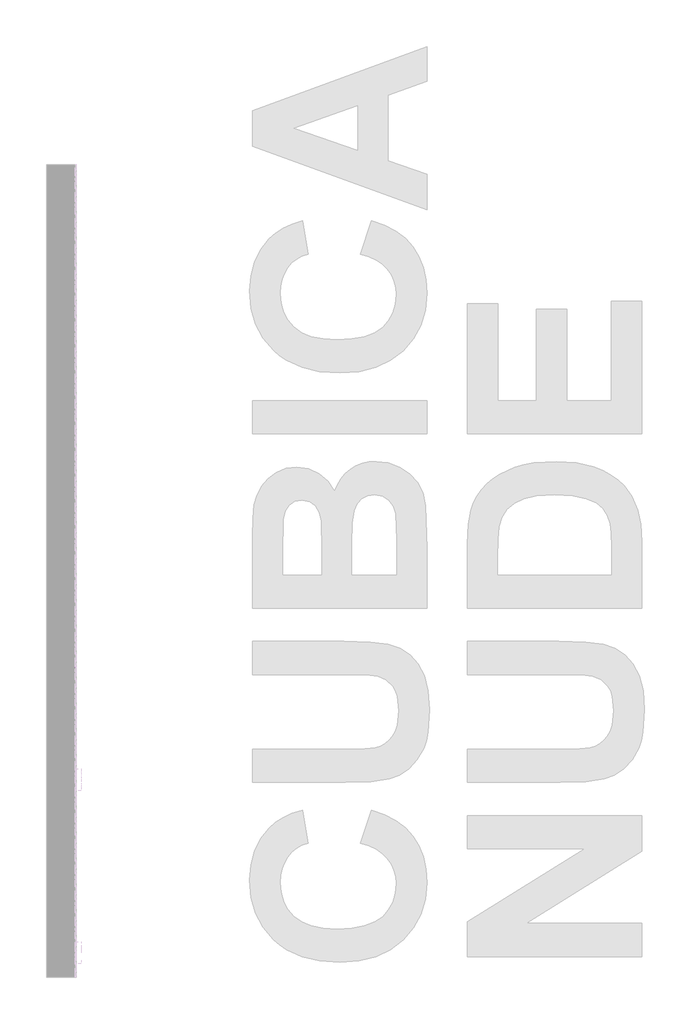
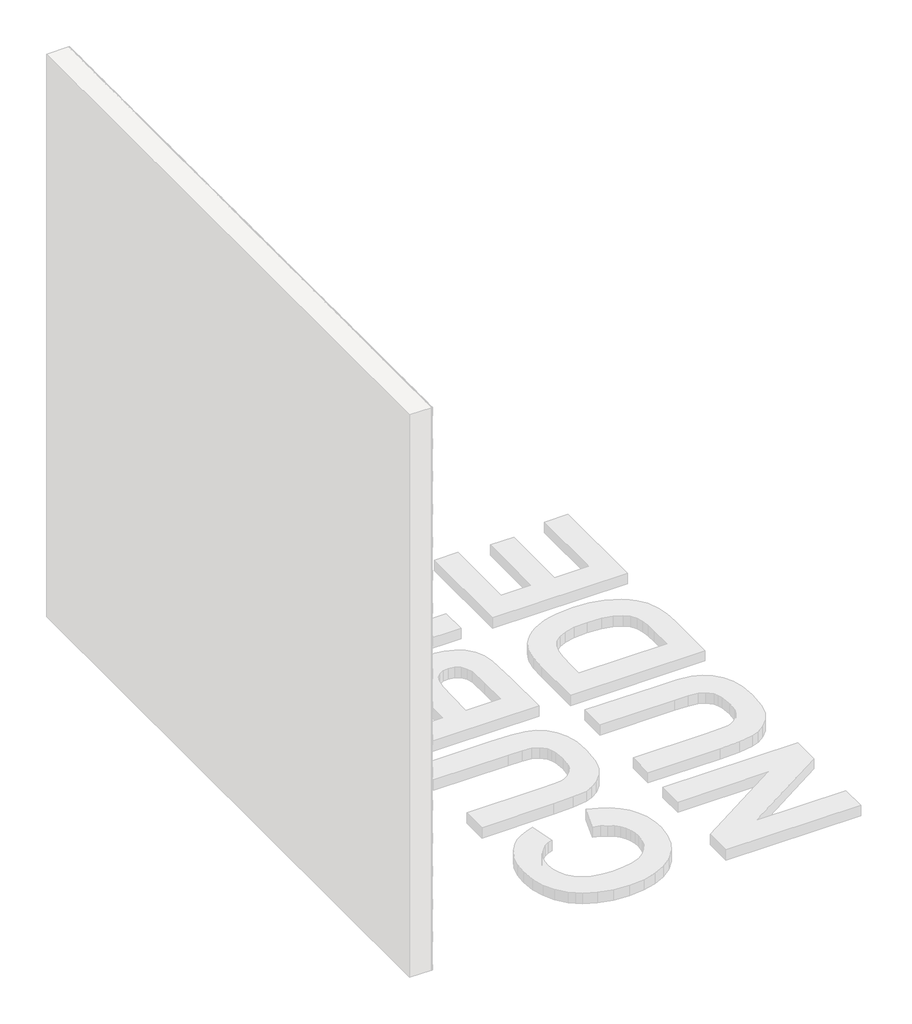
# One storey, part 60 of 121: 145 proxies.
"""IFC4 building model written with IfcOpenShell, lengths in millimetres."""

from ifc_helpers import new_model, si_unit, origin, place, context, project, spatial, transform, mapped, element, save
from components import generic_models_b2b2c5c1, generic_models_9bf73f6f, generic_models_5d175859

model = new_model("IFC4")

# Units and contexts
model_context = context("Model", 3, world=origin())
ifc_project = project(units=[si_unit("LENGTHUNIT", "METRE", prefix="MILLI")], contexts=[model_context])

# Site, building, storey
site = spatial("IfcSite", under=ifc_project)
building = spatial("IfcBuilding", under=site)
storey = spatial("IfcBuildingStorey", under=building, Name="PORTOBELLO - SHOWROOM", Elevation=0.0)

# Proxies
placement = place(None, origin())
generic_models_shape = generic_models_b2b2c5c1(model_context)
element("IfcBuildingElementProxy", 1, Name="PBSHOP - CUBICA NUDE 4,8X8,3 : CUBICA NUDE - POSIÇÃO 01", ObjectType="PBSHOP - CUBICA NUDE 4,8X8,3 : CUBICA NUDE - POSIÇÃO 01", at=placement, inside=storey, context=model_context, shape_type="MappedRepresentation", body=[
    mapped(generic_models_shape, transform((150369.5341846, 7032.4226303, 2091.7227645), x_axis=(0.0, 1.0, 0.0), y_axis=(0.0, 0.0, 1.0), z_axis=(1.0, 0.0, 0.0))),
])
element("IfcBuildingElementProxy", 2, Name="PBSHOP - CUBICA NUDE 4,8X8,3 : CUBICA NUDE - POSIÇÃO 01", ObjectType="PBSHOP - CUBICA NUDE 4,8X8,3 : CUBICA NUDE - POSIÇÃO 01", at=placement, inside=storey, context=model_context, shape_type="MappedRepresentation", body=[
    mapped(generic_models_shape, transform((150369.5341846, 7123.2618995, 2091.7227645), x_axis=(0.0, 1.0, 0.0), y_axis=(0.0, 0.0, 1.0), z_axis=(1.0, 0.0, 0.0))),
])
element("IfcBuildingElementProxy", 3, Name="PBSHOP - CUBICA NUDE 4,8X8,3 : CUBICA NUDE - POSIÇÃO 01", ObjectType="PBSHOP - CUBICA NUDE 4,8X8,3 : CUBICA NUDE - POSIÇÃO 01", at=placement, inside=storey, context=model_context, shape_type="MappedRepresentation", body=[
    mapped(generic_models_shape, transform((150369.5341846, 7214.1011688, 2091.7227645), x_axis=(0.0, 1.0, 0.0), y_axis=(0.0, 0.0, 1.0), z_axis=(1.0, 0.0, 0.0))),
])
element("IfcBuildingElementProxy", 4, Name="PBSHOP - CUBICA NUDE 4,8X8,3 : CUBICA NUDE - POSIÇÃO 01", ObjectType="PBSHOP - CUBICA NUDE 4,8X8,3 : CUBICA NUDE - POSIÇÃO 01", at=placement, inside=storey, context=model_context, shape_type="MappedRepresentation", body=[
    mapped(generic_models_shape, transform((150369.5341846, 7304.940438, 2091.7227645), x_axis=(0.0, 1.0, 0.0), y_axis=(0.0, 0.0, 1.0), z_axis=(1.0, 0.0, 0.0))),
])
element("IfcBuildingElementProxy", 5, Name="PBSHOP - CUBICA NUDE 4,8X8,3 : CUBICA NUDE - POSIÇÃO 01", ObjectType="PBSHOP - CUBICA NUDE 4,8X8,3 : CUBICA NUDE - POSIÇÃO 01", at=placement, inside=storey, context=model_context, shape_type="MappedRepresentation", body=[
    mapped(generic_models_shape, transform((150369.5341846, 7395.7797073, 2091.7227645), x_axis=(0.0, 1.0, 0.0), y_axis=(0.0, 0.0, 1.0), z_axis=(1.0, 0.0, 0.0))),
])
element("IfcBuildingElementProxy", 6, Name="PBSHOP - CUBICA NUDE 4,8X8,3 : CUBICA NUDE - POSIÇÃO 01", ObjectType="PBSHOP - CUBICA NUDE 4,8X8,3 : CUBICA NUDE - POSIÇÃO 01", at=placement, inside=storey, context=model_context, shape_type="MappedRepresentation", body=[
    mapped(generic_models_shape, transform((150369.5341846, 7486.6189765, 2091.7227645), x_axis=(0.0, 1.0, 0.0), y_axis=(0.0, 0.0, 1.0), z_axis=(1.0, 0.0, 0.0))),
])
element("IfcBuildingElementProxy", 7, Name="PBSHOP - CUBICA NUDE 4,8X8,3 : CUBICA NUDE - POSIÇÃO 01", ObjectType="PBSHOP - CUBICA NUDE 4,8X8,3 : CUBICA NUDE - POSIÇÃO 01", at=placement, inside=storey, context=model_context, shape_type="MappedRepresentation", body=[
    mapped(generic_models_shape, transform((150369.5341846, 7577.4582457, 2091.7227645), x_axis=(0.0, 1.0, 0.0), y_axis=(0.0, 0.0, 1.0), z_axis=(1.0, 0.0, 0.0))),
])
element("IfcBuildingElementProxy", 8, Name="PBSHOP - CUBICA NUDE 4,8X8,3 : CUBICA NUDE - POSIÇÃO 01", ObjectType="PBSHOP - CUBICA NUDE 4,8X8,3 : CUBICA NUDE - POSIÇÃO 01", at=placement, inside=storey, context=model_context, shape_type="MappedRepresentation", body=[
    mapped(generic_models_shape, transform((150369.5341846, 7668.297515, 2091.7227645), x_axis=(0.0, 1.0, 0.0), y_axis=(0.0, 0.0, 1.0), z_axis=(1.0, 0.0, 0.0))),
])
element("IfcBuildingElementProxy", 9, Name="PBSHOP - CUBICA NUDE 4,8X8,3 : CUBICA NUDE - POSIÇÃO 01", ObjectType="PBSHOP - CUBICA NUDE 4,8X8,3 : CUBICA NUDE - POSIÇÃO 01", at=placement, inside=storey, context=model_context, shape_type="MappedRepresentation", body=[
    mapped(generic_models_shape, transform((150369.5341846, 7759.1367842, 2091.7227645), x_axis=(0.0, 1.0, 0.0), y_axis=(0.0, 0.0, 1.0), z_axis=(1.0, 0.0, 0.0))),
])
element("IfcBuildingElementProxy", 10, Name="PBSHOP - CUBICA NUDE 4,8X8,3 : CUBICA NUDE - POSIÇÃO 01", ObjectType="PBSHOP - CUBICA NUDE 4,8X8,3 : CUBICA NUDE - POSIÇÃO 01", at=placement, inside=storey, context=model_context, shape_type="MappedRepresentation", body=[
    mapped(generic_models_shape, transform((150369.5341846, 7849.9760535, 2091.7227645), x_axis=(0.0, 1.0, 0.0), y_axis=(0.0, 0.0, 1.0), z_axis=(1.0, 0.0, 0.0))),
])
element("IfcBuildingElementProxy", 11, Name="PBSHOP - CUBICA NUDE 4,8X8,3 : CUBICA NUDE - POSIÇÃO 01", ObjectType="PBSHOP - CUBICA NUDE 4,8X8,3 : CUBICA NUDE - POSIÇÃO 01", at=placement, inside=storey, context=model_context, shape_type="MappedRepresentation", body=[
    mapped(generic_models_shape, transform((150369.5341846, 7940.8153227, 2091.7227645), x_axis=(0.0, 1.0, 0.0), y_axis=(0.0, 0.0, 1.0), z_axis=(1.0, 0.0, 0.0))),
])
element("IfcBuildingElementProxy", 12, Name="PBSHOP - CUBICA NUDE 4,8X8,3 : CUBICA NUDE - POSIÇÃO 01", ObjectType="PBSHOP - CUBICA NUDE 4,8X8,3 : CUBICA NUDE - POSIÇÃO 01", at=placement, inside=storey, context=model_context, shape_type="MappedRepresentation", body=[
    mapped(generic_models_shape, transform((150369.5341846, 7077.8422649, 2170.6574029), x_axis=(0.0, 1.0, 0.0), y_axis=(0.0, 0.0, 1.0), z_axis=(1.0, 0.0, 0.0))),
])
element("IfcBuildingElementProxy", 13, Name="PBSHOP - CUBICA NUDE 4,8X8,3 : CUBICA NUDE - POSIÇÃO 01", ObjectType="PBSHOP - CUBICA NUDE 4,8X8,3 : CUBICA NUDE - POSIÇÃO 01", at=placement, inside=storey, context=model_context, shape_type="MappedRepresentation", body=[
    mapped(generic_models_shape, transform((150369.5341846, 7168.6815341, 2170.6574029), x_axis=(0.0, 1.0, 0.0), y_axis=(0.0, 0.0, 1.0), z_axis=(1.0, 0.0, 0.0))),
])
element("IfcBuildingElementProxy", 14, Name="PBSHOP - CUBICA NUDE 4,8X8,3 : CUBICA NUDE - POSIÇÃO 01", ObjectType="PBSHOP - CUBICA NUDE 4,8X8,3 : CUBICA NUDE - POSIÇÃO 01", at=placement, inside=storey, context=model_context, shape_type="MappedRepresentation", body=[
    mapped(generic_models_shape, transform((150369.5341846, 7259.5208034, 2170.6574029), x_axis=(0.0, 1.0, 0.0), y_axis=(0.0, 0.0, 1.0), z_axis=(1.0, 0.0, 0.0))),
])
element("IfcBuildingElementProxy", 15, Name="PBSHOP - CUBICA NUDE 4,8X8,3 : CUBICA NUDE - POSIÇÃO 01", ObjectType="PBSHOP - CUBICA NUDE 4,8X8,3 : CUBICA NUDE - POSIÇÃO 01", at=placement, inside=storey, context=model_context, shape_type="MappedRepresentation", body=[
    mapped(generic_models_shape, transform((150369.5341846, 7350.3600726, 2170.6574029), x_axis=(0.0, 1.0, 0.0), y_axis=(0.0, 0.0, 1.0), z_axis=(1.0, 0.0, 0.0))),
])
element("IfcBuildingElementProxy", 16, Name="PBSHOP - CUBICA NUDE 4,8X8,3 : CUBICA NUDE - POSIÇÃO 01", ObjectType="PBSHOP - CUBICA NUDE 4,8X8,3 : CUBICA NUDE - POSIÇÃO 01", at=placement, inside=storey, context=model_context, shape_type="MappedRepresentation", body=[
    mapped(generic_models_shape, transform((150369.5341846, 7441.1993419, 2170.6574029), x_axis=(0.0, 1.0, 0.0), y_axis=(0.0, 0.0, 1.0), z_axis=(1.0, 0.0, 0.0))),
])
element("IfcBuildingElementProxy", 17, Name="PBSHOP - CUBICA NUDE 4,8X8,3 : CUBICA NUDE - POSIÇÃO 01", ObjectType="PBSHOP - CUBICA NUDE 4,8X8,3 : CUBICA NUDE - POSIÇÃO 01", at=placement, inside=storey, context=model_context, shape_type="MappedRepresentation", body=[
    mapped(generic_models_shape, transform((150369.5341846, 7532.0386111, 2170.6574029), x_axis=(0.0, 1.0, 0.0), y_axis=(0.0, 0.0, 1.0), z_axis=(1.0, 0.0, 0.0))),
])
element("IfcBuildingElementProxy", 18, Name="PBSHOP - CUBICA NUDE 4,8X8,3 : CUBICA NUDE - POSIÇÃO 01", ObjectType="PBSHOP - CUBICA NUDE 4,8X8,3 : CUBICA NUDE - POSIÇÃO 01", at=placement, inside=storey, context=model_context, shape_type="MappedRepresentation", body=[
    mapped(generic_models_shape, transform((150369.5341846, 7622.8778804, 2170.6574029), x_axis=(0.0, 1.0, 0.0), y_axis=(0.0, 0.0, 1.0), z_axis=(1.0, 0.0, 0.0))),
])
element("IfcBuildingElementProxy", 19, Name="PBSHOP - CUBICA NUDE 4,8X8,3 : CUBICA NUDE - POSIÇÃO 01", ObjectType="PBSHOP - CUBICA NUDE 4,8X8,3 : CUBICA NUDE - POSIÇÃO 01", at=placement, inside=storey, context=model_context, shape_type="MappedRepresentation", body=[
    mapped(generic_models_shape, transform((150369.5341846, 7713.7171496, 2170.6574029), x_axis=(0.0, 1.0, 0.0), y_axis=(0.0, 0.0, 1.0), z_axis=(1.0, 0.0, 0.0))),
])
element("IfcBuildingElementProxy", 20, Name="PBSHOP - CUBICA NUDE 4,8X8,3 : CUBICA NUDE - POSIÇÃO 01", ObjectType="PBSHOP - CUBICA NUDE 4,8X8,3 : CUBICA NUDE - POSIÇÃO 01", at=placement, inside=storey, context=model_context, shape_type="MappedRepresentation", body=[
    mapped(generic_models_shape, transform((150369.5341846, 7804.5564189, 2170.6574029), x_axis=(0.0, 1.0, 0.0), y_axis=(0.0, 0.0, 1.0), z_axis=(1.0, 0.0, 0.0))),
])
element("IfcBuildingElementProxy", 21, Name="PBSHOP - CUBICA NUDE 4,8X8,3 : CUBICA NUDE - POSIÇÃO 01", ObjectType="PBSHOP - CUBICA NUDE 4,8X8,3 : CUBICA NUDE - POSIÇÃO 01", at=placement, inside=storey, context=model_context, shape_type="MappedRepresentation", body=[
    mapped(generic_models_shape, transform((150369.5341846, 7895.3956881, 2170.6574029), x_axis=(0.0, 1.0, 0.0), y_axis=(0.0, 0.0, 1.0), z_axis=(1.0, 0.0, 0.0))),
])
element("IfcBuildingElementProxy", 22, Name="PBSHOP - CUBICA NUDE 4,8X8,3 : CUBICA NUDE - POSIÇÃO 01", ObjectType="PBSHOP - CUBICA NUDE 4,8X8,3 : CUBICA NUDE - POSIÇÃO 01", at=placement, inside=storey, context=model_context, shape_type="MappedRepresentation", body=[
    mapped(generic_models_shape, transform((150369.5341846, 7986.2349573, 2170.6574029), x_axis=(0.0, 1.0, 0.0), y_axis=(0.0, 0.0, 1.0), z_axis=(1.0, 0.0, 0.0))),
])
element("IfcBuildingElementProxy", 23, Name="PBSHOP - CUBICA NUDE 4,8X8,3 : CUBICA NUDE - POSIÇÃO 01", ObjectType="PBSHOP - CUBICA NUDE 4,8X8,3 : CUBICA NUDE - POSIÇÃO 01", at=placement, inside=storey, context=model_context, shape_type="MappedRepresentation", body=[
    mapped(generic_models_shape, transform((150369.5341846, 7032.4226303, 2249.5920413), x_axis=(0.0, 1.0, 0.0), y_axis=(0.0, 0.0, 1.0), z_axis=(1.0, 0.0, 0.0))),
])
element("IfcBuildingElementProxy", 24, Name="PBSHOP - CUBICA NUDE 4,8X8,3 : CUBICA NUDE - POSIÇÃO 01", ObjectType="PBSHOP - CUBICA NUDE 4,8X8,3 : CUBICA NUDE - POSIÇÃO 01", at=placement, inside=storey, context=model_context, shape_type="MappedRepresentation", body=[
    mapped(generic_models_shape, transform((150369.5341846, 7123.2618995, 2249.5920413), x_axis=(0.0, 1.0, 0.0), y_axis=(0.0, 0.0, 1.0), z_axis=(1.0, 0.0, 0.0))),
])
element("IfcBuildingElementProxy", 25, Name="PBSHOP - CUBICA NUDE 4,8X8,3 : CUBICA NUDE - POSIÇÃO 01", ObjectType="PBSHOP - CUBICA NUDE 4,8X8,3 : CUBICA NUDE - POSIÇÃO 01", at=placement, inside=storey, context=model_context, shape_type="MappedRepresentation", body=[
    mapped(generic_models_shape, transform((150369.5341846, 7214.1011688, 2249.5920413), x_axis=(0.0, 1.0, 0.0), y_axis=(0.0, 0.0, 1.0), z_axis=(1.0, 0.0, 0.0))),
])
element("IfcBuildingElementProxy", 26, Name="PBSHOP - CUBICA NUDE 4,8X8,3 : CUBICA NUDE - POSIÇÃO 01", ObjectType="PBSHOP - CUBICA NUDE 4,8X8,3 : CUBICA NUDE - POSIÇÃO 01", at=placement, inside=storey, context=model_context, shape_type="MappedRepresentation", body=[
    mapped(generic_models_shape, transform((150369.5341846, 7304.940438, 2249.5920413), x_axis=(0.0, 1.0, 0.0), y_axis=(0.0, 0.0, 1.0), z_axis=(1.0, 0.0, 0.0))),
])
element("IfcBuildingElementProxy", 27, Name="PBSHOP - CUBICA NUDE 4,8X8,3 : CUBICA NUDE - POSIÇÃO 01", ObjectType="PBSHOP - CUBICA NUDE 4,8X8,3 : CUBICA NUDE - POSIÇÃO 01", at=placement, inside=storey, context=model_context, shape_type="MappedRepresentation", body=[
    mapped(generic_models_shape, transform((150369.5341846, 7395.7797073, 2249.5920413), x_axis=(0.0, 1.0, 0.0), y_axis=(0.0, 0.0, 1.0), z_axis=(1.0, 0.0, 0.0))),
])
element("IfcBuildingElementProxy", 28, Name="PBSHOP - CUBICA NUDE 4,8X8,3 : CUBICA NUDE - POSIÇÃO 01", ObjectType="PBSHOP - CUBICA NUDE 4,8X8,3 : CUBICA NUDE - POSIÇÃO 01", at=placement, inside=storey, context=model_context, shape_type="MappedRepresentation", body=[
    mapped(generic_models_shape, transform((150369.5341846, 7486.6189765, 2249.5920413), x_axis=(0.0, 1.0, 0.0), y_axis=(0.0, 0.0, 1.0), z_axis=(1.0, 0.0, 0.0))),
])
element("IfcBuildingElementProxy", 29, Name="PBSHOP - CUBICA NUDE 4,8X8,3 : CUBICA NUDE - POSIÇÃO 01", ObjectType="PBSHOP - CUBICA NUDE 4,8X8,3 : CUBICA NUDE - POSIÇÃO 01", at=placement, inside=storey, context=model_context, shape_type="MappedRepresentation", body=[
    mapped(generic_models_shape, transform((150369.5341846, 7577.4582457, 2249.5920413), x_axis=(0.0, 1.0, 0.0), y_axis=(0.0, 0.0, 1.0), z_axis=(1.0, 0.0, 0.0))),
])
element("IfcBuildingElementProxy", 30, Name="PBSHOP - CUBICA NUDE 4,8X8,3 : CUBICA NUDE - POSIÇÃO 01", ObjectType="PBSHOP - CUBICA NUDE 4,8X8,3 : CUBICA NUDE - POSIÇÃO 01", at=placement, inside=storey, context=model_context, shape_type="MappedRepresentation", body=[
    mapped(generic_models_shape, transform((150369.5341846, 7668.297515, 2249.5920413), x_axis=(0.0, 1.0, 0.0), y_axis=(0.0, 0.0, 1.0), z_axis=(1.0, 0.0, 0.0))),
])
element("IfcBuildingElementProxy", 31, Name="PBSHOP - CUBICA NUDE 4,8X8,3 : CUBICA NUDE - POSIÇÃO 01", ObjectType="PBSHOP - CUBICA NUDE 4,8X8,3 : CUBICA NUDE - POSIÇÃO 01", at=placement, inside=storey, context=model_context, shape_type="MappedRepresentation", body=[
    mapped(generic_models_shape, transform((150369.5341846, 7759.1367842, 2249.5920413), x_axis=(0.0, 1.0, 0.0), y_axis=(0.0, 0.0, 1.0), z_axis=(1.0, 0.0, 0.0))),
])
element("IfcBuildingElementProxy", 32, Name="PBSHOP - CUBICA NUDE 4,8X8,3 : CUBICA NUDE - POSIÇÃO 01", ObjectType="PBSHOP - CUBICA NUDE 4,8X8,3 : CUBICA NUDE - POSIÇÃO 01", at=placement, inside=storey, context=model_context, shape_type="MappedRepresentation", body=[
    mapped(generic_models_shape, transform((150369.5341846, 7849.9760535, 2249.5920413), x_axis=(0.0, 1.0, 0.0), y_axis=(0.0, 0.0, 1.0), z_axis=(1.0, 0.0, 0.0))),
])
element("IfcBuildingElementProxy", 33, Name="PBSHOP - CUBICA NUDE 4,8X8,3 : CUBICA NUDE - POSIÇÃO 01", ObjectType="PBSHOP - CUBICA NUDE 4,8X8,3 : CUBICA NUDE - POSIÇÃO 01", at=placement, inside=storey, context=model_context, shape_type="MappedRepresentation", body=[
    mapped(generic_models_shape, transform((150369.5341846, 7940.8153227, 2249.5920413), x_axis=(0.0, 1.0, 0.0), y_axis=(0.0, 0.0, 1.0), z_axis=(1.0, 0.0, 0.0))),
])
element("IfcBuildingElementProxy", 34, Name="PBSHOP - CUBICA NUDE 4,8X8,3 : CUBICA NUDE - POSIÇÃO 01", ObjectType="PBSHOP - CUBICA NUDE 4,8X8,3 : CUBICA NUDE - POSIÇÃO 01", at=placement, inside=storey, context=model_context, shape_type="MappedRepresentation", body=[
    mapped(generic_models_shape, transform((150369.5341846, 7077.8422649, 2328.5266797), x_axis=(0.0, 1.0, 0.0), y_axis=(0.0, 0.0, 1.0), z_axis=(1.0, 0.0, 0.0))),
])
element("IfcBuildingElementProxy", 35, Name="PBSHOP - CUBICA NUDE 4,8X8,3 : CUBICA NUDE - POSIÇÃO 01", ObjectType="PBSHOP - CUBICA NUDE 4,8X8,3 : CUBICA NUDE - POSIÇÃO 01", at=placement, inside=storey, context=model_context, shape_type="MappedRepresentation", body=[
    mapped(generic_models_shape, transform((150369.5341846, 7168.6815341, 2328.5266797), x_axis=(0.0, 1.0, 0.0), y_axis=(0.0, 0.0, 1.0), z_axis=(1.0, 0.0, 0.0))),
])
element("IfcBuildingElementProxy", 36, Name="PBSHOP - CUBICA NUDE 4,8X8,3 : CUBICA NUDE - POSIÇÃO 01", ObjectType="PBSHOP - CUBICA NUDE 4,8X8,3 : CUBICA NUDE - POSIÇÃO 01", at=placement, inside=storey, context=model_context, shape_type="MappedRepresentation", body=[
    mapped(generic_models_shape, transform((150369.5341846, 7259.5208034, 2328.5266797), x_axis=(0.0, 1.0, 0.0), y_axis=(0.0, 0.0, 1.0), z_axis=(1.0, 0.0, 0.0))),
])
element("IfcBuildingElementProxy", 37, Name="PBSHOP - CUBICA NUDE 4,8X8,3 : CUBICA NUDE - POSIÇÃO 01", ObjectType="PBSHOP - CUBICA NUDE 4,8X8,3 : CUBICA NUDE - POSIÇÃO 01", at=placement, inside=storey, context=model_context, shape_type="MappedRepresentation", body=[
    mapped(generic_models_shape, transform((150369.5341846, 7350.3600726, 2328.5266797), x_axis=(0.0, 1.0, 0.0), y_axis=(0.0, 0.0, 1.0), z_axis=(1.0, 0.0, 0.0))),
])
element("IfcBuildingElementProxy", 38, Name="PBSHOP - CUBICA NUDE 4,8X8,3 : CUBICA NUDE - POSIÇÃO 01", ObjectType="PBSHOP - CUBICA NUDE 4,8X8,3 : CUBICA NUDE - POSIÇÃO 01", at=placement, inside=storey, context=model_context, shape_type="MappedRepresentation", body=[
    mapped(generic_models_shape, transform((150369.5341846, 7441.1993419, 2328.5266797), x_axis=(0.0, 1.0, 0.0), y_axis=(0.0, 0.0, 1.0), z_axis=(1.0, 0.0, 0.0))),
])
element("IfcBuildingElementProxy", 39, Name="PBSHOP - CUBICA NUDE 4,8X8,3 : CUBICA NUDE - POSIÇÃO 01", ObjectType="PBSHOP - CUBICA NUDE 4,8X8,3 : CUBICA NUDE - POSIÇÃO 01", at=placement, inside=storey, context=model_context, shape_type="MappedRepresentation", body=[
    mapped(generic_models_shape, transform((150369.5341846, 7532.0386111, 2328.5266797), x_axis=(0.0, 1.0, 0.0), y_axis=(0.0, 0.0, 1.0), z_axis=(1.0, 0.0, 0.0))),
])
element("IfcBuildingElementProxy", 40, Name="PBSHOP - CUBICA NUDE 4,8X8,3 : CUBICA NUDE - POSIÇÃO 01", ObjectType="PBSHOP - CUBICA NUDE 4,8X8,3 : CUBICA NUDE - POSIÇÃO 01", at=placement, inside=storey, context=model_context, shape_type="MappedRepresentation", body=[
    mapped(generic_models_shape, transform((150369.5341846, 7622.8778804, 2328.5266797), x_axis=(0.0, 1.0, 0.0), y_axis=(0.0, 0.0, 1.0), z_axis=(1.0, 0.0, 0.0))),
])
element("IfcBuildingElementProxy", 41, Name="PBSHOP - CUBICA NUDE 4,8X8,3 : CUBICA NUDE - POSIÇÃO 01", ObjectType="PBSHOP - CUBICA NUDE 4,8X8,3 : CUBICA NUDE - POSIÇÃO 01", at=placement, inside=storey, context=model_context, shape_type="MappedRepresentation", body=[
    mapped(generic_models_shape, transform((150369.5341846, 7713.7171496, 2328.5266797), x_axis=(0.0, 1.0, 0.0), y_axis=(0.0, 0.0, 1.0), z_axis=(1.0, 0.0, 0.0))),
])
element("IfcBuildingElementProxy", 42, Name="PBSHOP - CUBICA NUDE 4,8X8,3 : CUBICA NUDE - POSIÇÃO 01", ObjectType="PBSHOP - CUBICA NUDE 4,8X8,3 : CUBICA NUDE - POSIÇÃO 01", at=placement, inside=storey, context=model_context, shape_type="MappedRepresentation", body=[
    mapped(generic_models_shape, transform((150369.5341846, 7804.5564189, 2328.5266797), x_axis=(0.0, 1.0, 0.0), y_axis=(0.0, 0.0, 1.0), z_axis=(1.0, 0.0, 0.0))),
])
element("IfcBuildingElementProxy", 43, Name="PBSHOP - CUBICA NUDE 4,8X8,3 : CUBICA NUDE - POSIÇÃO 01", ObjectType="PBSHOP - CUBICA NUDE 4,8X8,3 : CUBICA NUDE - POSIÇÃO 01", at=placement, inside=storey, context=model_context, shape_type="MappedRepresentation", body=[
    mapped(generic_models_shape, transform((150369.5341846, 7895.3956881, 2328.5266797), x_axis=(0.0, 1.0, 0.0), y_axis=(0.0, 0.0, 1.0), z_axis=(1.0, 0.0, 0.0))),
])
element("IfcBuildingElementProxy", 44, Name="PBSHOP - CUBICA NUDE 4,8X8,3 : CUBICA NUDE - POSIÇÃO 01", ObjectType="PBSHOP - CUBICA NUDE 4,8X8,3 : CUBICA NUDE - POSIÇÃO 01", at=placement, inside=storey, context=model_context, shape_type="MappedRepresentation", body=[
    mapped(generic_models_shape, transform((150369.5341846, 7986.2349573, 2328.5266797), x_axis=(0.0, 1.0, 0.0), y_axis=(0.0, 0.0, 1.0), z_axis=(1.0, 0.0, 0.0))),
])
element("IfcBuildingElementProxy", 45, Name="PBSHOP - CUBICA NUDE 4,8X8,3 : CUBICA NUDE - POSIÇÃO 01", ObjectType="PBSHOP - CUBICA NUDE 4,8X8,3 : CUBICA NUDE - POSIÇÃO 01", at=placement, inside=storey, context=model_context, shape_type="MappedRepresentation", body=[
    mapped(generic_models_shape, transform((150369.5341846, 7032.4226303, 2407.461318), x_axis=(0.0, 1.0, 0.0), y_axis=(0.0, 0.0, 1.0), z_axis=(1.0, 0.0, 0.0))),
])
element("IfcBuildingElementProxy", 46, Name="PBSHOP - CUBICA NUDE 4,8X8,3 : CUBICA NUDE - POSIÇÃO 01", ObjectType="PBSHOP - CUBICA NUDE 4,8X8,3 : CUBICA NUDE - POSIÇÃO 01", at=placement, inside=storey, context=model_context, shape_type="MappedRepresentation", body=[
    mapped(generic_models_shape, transform((150369.5341846, 7123.2618995, 2407.461318), x_axis=(0.0, 1.0, 0.0), y_axis=(0.0, 0.0, 1.0), z_axis=(1.0, 0.0, 0.0))),
])
element("IfcBuildingElementProxy", 47, Name="PBSHOP - CUBICA NUDE 4,8X8,3 : CUBICA NUDE - POSIÇÃO 01", ObjectType="PBSHOP - CUBICA NUDE 4,8X8,3 : CUBICA NUDE - POSIÇÃO 01", at=placement, inside=storey, context=model_context, shape_type="MappedRepresentation", body=[
    mapped(generic_models_shape, transform((150369.5341846, 7214.1011688, 2407.461318), x_axis=(0.0, 1.0, 0.0), y_axis=(0.0, 0.0, 1.0), z_axis=(1.0, 0.0, 0.0))),
])
element("IfcBuildingElementProxy", 48, Name="PBSHOP - CUBICA NUDE 4,8X8,3 : CUBICA NUDE - POSIÇÃO 01", ObjectType="PBSHOP - CUBICA NUDE 4,8X8,3 : CUBICA NUDE - POSIÇÃO 01", at=placement, inside=storey, context=model_context, shape_type="MappedRepresentation", body=[
    mapped(generic_models_shape, transform((150369.5341846, 7304.940438, 2407.461318), x_axis=(0.0, 1.0, 0.0), y_axis=(0.0, 0.0, 1.0), z_axis=(1.0, 0.0, 0.0))),
])
element("IfcBuildingElementProxy", 49, Name="PBSHOP - CUBICA NUDE 4,8X8,3 : CUBICA NUDE - POSIÇÃO 01", ObjectType="PBSHOP - CUBICA NUDE 4,8X8,3 : CUBICA NUDE - POSIÇÃO 01", at=placement, inside=storey, context=model_context, shape_type="MappedRepresentation", body=[
    mapped(generic_models_shape, transform((150369.5341846, 7395.7797073, 2407.461318), x_axis=(0.0, 1.0, 0.0), y_axis=(0.0, 0.0, 1.0), z_axis=(1.0, 0.0, 0.0))),
])
element("IfcBuildingElementProxy", 50, Name="PBSHOP - CUBICA NUDE 4,8X8,3 : CUBICA NUDE - POSIÇÃO 01", ObjectType="PBSHOP - CUBICA NUDE 4,8X8,3 : CUBICA NUDE - POSIÇÃO 01", at=placement, inside=storey, context=model_context, shape_type="MappedRepresentation", body=[
    mapped(generic_models_shape, transform((150369.5341846, 7486.6189765, 2407.461318), x_axis=(0.0, 1.0, 0.0), y_axis=(0.0, 0.0, 1.0), z_axis=(1.0, 0.0, 0.0))),
])
generic_models_2_shape = generic_models_9bf73f6f(model_context)
element("IfcBuildingElementProxy", 51, Name="PBSHOP - CUBICA NUDE 4,8X8,3 : CUBICA NUDE - POSIÇÃO 03", ObjectType="PBSHOP - CUBICA NUDE 4,8X8,3 : CUBICA NUDE - POSIÇÃO 03", at=placement, inside=storey, context=model_context, shape_type="MappedRepresentation", body=[
    mapped(generic_models_2_shape, transform((150369.5341846, 7872.6880299, 1973.2795966), x_axis=(0.0, 1.0, 0.0), y_axis=(0.0, 0.0, 1.0), z_axis=(1.0, 0.0, 0.0))),
])
element("IfcBuildingElementProxy", 52, Name="PBSHOP - CUBICA NUDE 4,8X8,3 : CUBICA NUDE - POSIÇÃO 03", ObjectType="PBSHOP - CUBICA NUDE 4,8X8,3 : CUBICA NUDE - POSIÇÃO 03", at=placement, inside=storey, context=model_context, shape_type="MappedRepresentation", body=[
    mapped(generic_models_2_shape, transform((150369.5341846, 7963.5272992, 1973.2795966), x_axis=(0.0, 1.0, 0.0), y_axis=(0.0, 0.0, 1.0), z_axis=(1.0, 0.0, 0.0))),
])
element("IfcBuildingElementProxy", 53, Name="PBSHOP - CUBICA NUDE 4,8X8,3 : CUBICA NUDE - POSIÇÃO 03", ObjectType="PBSHOP - CUBICA NUDE 4,8X8,3 : CUBICA NUDE - POSIÇÃO 03", at=placement, inside=storey, context=model_context, shape_type="MappedRepresentation", body=[
    mapped(generic_models_2_shape, transform((150369.5341846, 7009.7149721, 2052.2142349), x_axis=(0.0, 1.0, 0.0), y_axis=(0.0, 0.0, 1.0), z_axis=(1.0, 0.0, 0.0))),
])
element("IfcBuildingElementProxy", 54, Name="PBSHOP - CUBICA NUDE 4,8X8,3 : CUBICA NUDE - POSIÇÃO 03", ObjectType="PBSHOP - CUBICA NUDE 4,8X8,3 : CUBICA NUDE - POSIÇÃO 03", at=placement, inside=storey, context=model_context, shape_type="MappedRepresentation", body=[
    mapped(generic_models_2_shape, transform((150369.5341846, 7100.5542414, 2052.2142349), x_axis=(0.0, 1.0, 0.0), y_axis=(0.0, 0.0, 1.0), z_axis=(1.0, 0.0, 0.0))),
])
element("IfcBuildingElementProxy", 55, Name="PBSHOP - CUBICA NUDE 4,8X8,3 : CUBICA NUDE - POSIÇÃO 03", ObjectType="PBSHOP - CUBICA NUDE 4,8X8,3 : CUBICA NUDE - POSIÇÃO 03", at=placement, inside=storey, context=model_context, shape_type="MappedRepresentation", body=[
    mapped(generic_models_2_shape, transform((150369.5341846, 7191.3935106, 2052.2142349), x_axis=(0.0, 1.0, 0.0), y_axis=(0.0, 0.0, 1.0), z_axis=(1.0, 0.0, 0.0))),
])
element("IfcBuildingElementProxy", 56, Name="PBSHOP - CUBICA NUDE 4,8X8,3 : CUBICA NUDE - POSIÇÃO 03", ObjectType="PBSHOP - CUBICA NUDE 4,8X8,3 : CUBICA NUDE - POSIÇÃO 03", at=placement, inside=storey, context=model_context, shape_type="MappedRepresentation", body=[
    mapped(generic_models_2_shape, transform((150369.5341846, 7282.2327799, 2052.2142349), x_axis=(0.0, 1.0, 0.0), y_axis=(0.0, 0.0, 1.0), z_axis=(1.0, 0.0, 0.0))),
])
element("IfcBuildingElementProxy", 57, Name="PBSHOP - CUBICA NUDE 4,8X8,3 : CUBICA NUDE - POSIÇÃO 03", ObjectType="PBSHOP - CUBICA NUDE 4,8X8,3 : CUBICA NUDE - POSIÇÃO 03", at=placement, inside=storey, context=model_context, shape_type="MappedRepresentation", body=[
    mapped(generic_models_2_shape, transform((150369.5341846, 7373.0720491, 2052.2142349), x_axis=(0.0, 1.0, 0.0), y_axis=(0.0, 0.0, 1.0), z_axis=(1.0, 0.0, 0.0))),
])
element("IfcBuildingElementProxy", 58, Name="PBSHOP - CUBICA NUDE 4,8X8,3 : CUBICA NUDE - POSIÇÃO 03", ObjectType="PBSHOP - CUBICA NUDE 4,8X8,3 : CUBICA NUDE - POSIÇÃO 03", at=placement, inside=storey, context=model_context, shape_type="MappedRepresentation", body=[
    mapped(generic_models_2_shape, transform((150369.5341846, 7463.9113184, 2052.2142349), x_axis=(0.0, 1.0, 0.0), y_axis=(0.0, 0.0, 1.0), z_axis=(1.0, 0.0, 0.0))),
])
element("IfcBuildingElementProxy", 59, Name="PBSHOP - CUBICA NUDE 4,8X8,3 : CUBICA NUDE - POSIÇÃO 03", ObjectType="PBSHOP - CUBICA NUDE 4,8X8,3 : CUBICA NUDE - POSIÇÃO 03", at=placement, inside=storey, context=model_context, shape_type="MappedRepresentation", body=[
    mapped(generic_models_2_shape, transform((150369.5341846, 7554.7505876, 2052.2142349), x_axis=(0.0, 1.0, 0.0), y_axis=(0.0, 0.0, 1.0), z_axis=(1.0, 0.0, 0.0))),
])
element("IfcBuildingElementProxy", 60, Name="PBSHOP - CUBICA NUDE 4,8X8,3 : CUBICA NUDE - POSIÇÃO 03", ObjectType="PBSHOP - CUBICA NUDE 4,8X8,3 : CUBICA NUDE - POSIÇÃO 03", at=placement, inside=storey, context=model_context, shape_type="MappedRepresentation", body=[
    mapped(generic_models_2_shape, transform((150369.5341846, 7645.5898568, 2052.2142349), x_axis=(0.0, 1.0, 0.0), y_axis=(0.0, 0.0, 1.0), z_axis=(1.0, 0.0, 0.0))),
])
element("IfcBuildingElementProxy", 61, Name="PBSHOP - CUBICA NUDE 4,8X8,3 : CUBICA NUDE - POSIÇÃO 03", ObjectType="PBSHOP - CUBICA NUDE 4,8X8,3 : CUBICA NUDE - POSIÇÃO 03", at=placement, inside=storey, context=model_context, shape_type="MappedRepresentation", body=[
    mapped(generic_models_2_shape, transform((150369.5341846, 7736.4291261, 2052.2142349), x_axis=(0.0, 1.0, 0.0), y_axis=(0.0, 0.0, 1.0), z_axis=(1.0, 0.0, 0.0))),
])
element("IfcBuildingElementProxy", 62, Name="PBSHOP - CUBICA NUDE 4,8X8,3 : CUBICA NUDE - POSIÇÃO 03", ObjectType="PBSHOP - CUBICA NUDE 4,8X8,3 : CUBICA NUDE - POSIÇÃO 03", at=placement, inside=storey, context=model_context, shape_type="MappedRepresentation", body=[
    mapped(generic_models_2_shape, transform((150369.5341846, 7827.2683953, 2052.2142349), x_axis=(0.0, 1.0, 0.0), y_axis=(0.0, 0.0, 1.0), z_axis=(1.0, 0.0, 0.0))),
])
element("IfcBuildingElementProxy", 63, Name="PBSHOP - CUBICA NUDE 4,8X8,3 : CUBICA NUDE - POSIÇÃO 03", ObjectType="PBSHOP - CUBICA NUDE 4,8X8,3 : CUBICA NUDE - POSIÇÃO 03", at=placement, inside=storey, context=model_context, shape_type="MappedRepresentation", body=[
    mapped(generic_models_2_shape, transform((150369.5341846, 7918.1076646, 2052.2142349), x_axis=(0.0, 1.0, 0.0), y_axis=(0.0, 0.0, 1.0), z_axis=(1.0, 0.0, 0.0))),
])
element("IfcBuildingElementProxy", 64, Name="PBSHOP - CUBICA NUDE 4,8X8,3 : CUBICA NUDE - POSIÇÃO 03", ObjectType="PBSHOP - CUBICA NUDE 4,8X8,3 : CUBICA NUDE - POSIÇÃO 03", at=placement, inside=storey, context=model_context, shape_type="MappedRepresentation", body=[
    mapped(generic_models_2_shape, transform((150369.5341846, 7055.1346068, 2131.1488733), x_axis=(0.0, 1.0, 0.0), y_axis=(0.0, 0.0, 1.0), z_axis=(1.0, 0.0, 0.0))),
])
element("IfcBuildingElementProxy", 65, Name="PBSHOP - CUBICA NUDE 4,8X8,3 : CUBICA NUDE - POSIÇÃO 03", ObjectType="PBSHOP - CUBICA NUDE 4,8X8,3 : CUBICA NUDE - POSIÇÃO 03", at=placement, inside=storey, context=model_context, shape_type="MappedRepresentation", body=[
    mapped(generic_models_2_shape, transform((150369.5341846, 7145.973876, 2131.1488733), x_axis=(0.0, 1.0, 0.0), y_axis=(0.0, 0.0, 1.0), z_axis=(1.0, 0.0, 0.0))),
])
element("IfcBuildingElementProxy", 66, Name="PBSHOP - CUBICA NUDE 4,8X8,3 : CUBICA NUDE - POSIÇÃO 03", ObjectType="PBSHOP - CUBICA NUDE 4,8X8,3 : CUBICA NUDE - POSIÇÃO 03", at=placement, inside=storey, context=model_context, shape_type="MappedRepresentation", body=[
    mapped(generic_models_2_shape, transform((150369.5341846, 7236.8131452, 2131.1488733), x_axis=(0.0, 1.0, 0.0), y_axis=(0.0, 0.0, 1.0), z_axis=(1.0, 0.0, 0.0))),
])
element("IfcBuildingElementProxy", 67, Name="PBSHOP - CUBICA NUDE 4,8X8,3 : CUBICA NUDE - POSIÇÃO 03", ObjectType="PBSHOP - CUBICA NUDE 4,8X8,3 : CUBICA NUDE - POSIÇÃO 03", at=placement, inside=storey, context=model_context, shape_type="MappedRepresentation", body=[
    mapped(generic_models_2_shape, transform((150369.5341846, 7327.6524145, 2131.1488733), x_axis=(0.0, 1.0, 0.0), y_axis=(0.0, 0.0, 1.0), z_axis=(1.0, 0.0, 0.0))),
])
element("IfcBuildingElementProxy", 68, Name="PBSHOP - CUBICA NUDE 4,8X8,3 : CUBICA NUDE - POSIÇÃO 03", ObjectType="PBSHOP - CUBICA NUDE 4,8X8,3 : CUBICA NUDE - POSIÇÃO 03", at=placement, inside=storey, context=model_context, shape_type="MappedRepresentation", body=[
    mapped(generic_models_2_shape, transform((150369.5341846, 7418.4916837, 2131.1488733), x_axis=(0.0, 1.0, 0.0), y_axis=(0.0, 0.0, 1.0), z_axis=(1.0, 0.0, 0.0))),
])
element("IfcBuildingElementProxy", 69, Name="PBSHOP - CUBICA NUDE 4,8X8,3 : CUBICA NUDE - POSIÇÃO 03", ObjectType="PBSHOP - CUBICA NUDE 4,8X8,3 : CUBICA NUDE - POSIÇÃO 03", at=placement, inside=storey, context=model_context, shape_type="MappedRepresentation", body=[
    mapped(generic_models_2_shape, transform((150369.5341846, 7509.330953, 2131.1488733), x_axis=(0.0, 1.0, 0.0), y_axis=(0.0, 0.0, 1.0), z_axis=(1.0, 0.0, 0.0))),
])
element("IfcBuildingElementProxy", 70, Name="PBSHOP - CUBICA NUDE 4,8X8,3 : CUBICA NUDE - POSIÇÃO 03", ObjectType="PBSHOP - CUBICA NUDE 4,8X8,3 : CUBICA NUDE - POSIÇÃO 03", at=placement, inside=storey, context=model_context, shape_type="MappedRepresentation", body=[
    mapped(generic_models_2_shape, transform((150369.5341846, 7600.1702222, 2131.1488733), x_axis=(0.0, 1.0, 0.0), y_axis=(0.0, 0.0, 1.0), z_axis=(1.0, 0.0, 0.0))),
])
element("IfcBuildingElementProxy", 71, Name="PBSHOP - CUBICA NUDE 4,8X8,3 : CUBICA NUDE - POSIÇÃO 03", ObjectType="PBSHOP - CUBICA NUDE 4,8X8,3 : CUBICA NUDE - POSIÇÃO 03", at=placement, inside=storey, context=model_context, shape_type="MappedRepresentation", body=[
    mapped(generic_models_2_shape, transform((150369.5341846, 7691.0094915, 2131.1488733), x_axis=(0.0, 1.0, 0.0), y_axis=(0.0, 0.0, 1.0), z_axis=(1.0, 0.0, 0.0))),
])
element("IfcBuildingElementProxy", 72, Name="PBSHOP - CUBICA NUDE 4,8X8,3 : CUBICA NUDE - POSIÇÃO 03", ObjectType="PBSHOP - CUBICA NUDE 4,8X8,3 : CUBICA NUDE - POSIÇÃO 03", at=placement, inside=storey, context=model_context, shape_type="MappedRepresentation", body=[
    mapped(generic_models_2_shape, transform((150369.5341846, 7781.8487607, 2131.1488733), x_axis=(0.0, 1.0, 0.0), y_axis=(0.0, 0.0, 1.0), z_axis=(1.0, 0.0, 0.0))),
])
element("IfcBuildingElementProxy", 73, Name="PBSHOP - CUBICA NUDE 4,8X8,3 : CUBICA NUDE - POSIÇÃO 03", ObjectType="PBSHOP - CUBICA NUDE 4,8X8,3 : CUBICA NUDE - POSIÇÃO 03", at=placement, inside=storey, context=model_context, shape_type="MappedRepresentation", body=[
    mapped(generic_models_2_shape, transform((150369.5341846, 7872.6880299, 2131.1488733), x_axis=(0.0, 1.0, 0.0), y_axis=(0.0, 0.0, 1.0), z_axis=(1.0, 0.0, 0.0))),
])
element("IfcBuildingElementProxy", 74, Name="PBSHOP - CUBICA NUDE 4,8X8,3 : CUBICA NUDE - POSIÇÃO 03", ObjectType="PBSHOP - CUBICA NUDE 4,8X8,3 : CUBICA NUDE - POSIÇÃO 03", at=placement, inside=storey, context=model_context, shape_type="MappedRepresentation", body=[
    mapped(generic_models_2_shape, transform((150369.5341846, 7963.5272992, 2131.1488733), x_axis=(0.0, 1.0, 0.0), y_axis=(0.0, 0.0, 1.0), z_axis=(1.0, 0.0, 0.0))),
])
element("IfcBuildingElementProxy", 75, Name="PBSHOP - CUBICA NUDE 4,8X8,3 : CUBICA NUDE - POSIÇÃO 03", ObjectType="PBSHOP - CUBICA NUDE 4,8X8,3 : CUBICA NUDE - POSIÇÃO 03", at=placement, inside=storey, context=model_context, shape_type="MappedRepresentation", body=[
    mapped(generic_models_2_shape, transform((150369.5341846, 7009.7149721, 2210.0835117), x_axis=(0.0, 1.0, 0.0), y_axis=(0.0, 0.0, 1.0), z_axis=(1.0, 0.0, 0.0))),
])
element("IfcBuildingElementProxy", 76, Name="PBSHOP - CUBICA NUDE 4,8X8,3 : CUBICA NUDE - POSIÇÃO 03", ObjectType="PBSHOP - CUBICA NUDE 4,8X8,3 : CUBICA NUDE - POSIÇÃO 03", at=placement, inside=storey, context=model_context, shape_type="MappedRepresentation", body=[
    mapped(generic_models_2_shape, transform((150369.5341846, 7100.5542414, 2210.0835117), x_axis=(0.0, 1.0, 0.0), y_axis=(0.0, 0.0, 1.0), z_axis=(1.0, 0.0, 0.0))),
])
element("IfcBuildingElementProxy", 77, Name="PBSHOP - CUBICA NUDE 4,8X8,3 : CUBICA NUDE - POSIÇÃO 03", ObjectType="PBSHOP - CUBICA NUDE 4,8X8,3 : CUBICA NUDE - POSIÇÃO 03", at=placement, inside=storey, context=model_context, shape_type="MappedRepresentation", body=[
    mapped(generic_models_2_shape, transform((150369.5341846, 7191.3935106, 2210.0835117), x_axis=(0.0, 1.0, 0.0), y_axis=(0.0, 0.0, 1.0), z_axis=(1.0, 0.0, 0.0))),
])
element("IfcBuildingElementProxy", 78, Name="PBSHOP - CUBICA NUDE 4,8X8,3 : CUBICA NUDE - POSIÇÃO 03", ObjectType="PBSHOP - CUBICA NUDE 4,8X8,3 : CUBICA NUDE - POSIÇÃO 03", at=placement, inside=storey, context=model_context, shape_type="MappedRepresentation", body=[
    mapped(generic_models_2_shape, transform((150369.5341846, 7282.2327799, 2210.0835117), x_axis=(0.0, 1.0, 0.0), y_axis=(0.0, 0.0, 1.0), z_axis=(1.0, 0.0, 0.0))),
])
element("IfcBuildingElementProxy", 79, Name="PBSHOP - CUBICA NUDE 4,8X8,3 : CUBICA NUDE - POSIÇÃO 03", ObjectType="PBSHOP - CUBICA NUDE 4,8X8,3 : CUBICA NUDE - POSIÇÃO 03", at=placement, inside=storey, context=model_context, shape_type="MappedRepresentation", body=[
    mapped(generic_models_2_shape, transform((150369.5341846, 7373.0720491, 2210.0835117), x_axis=(0.0, 1.0, 0.0), y_axis=(0.0, 0.0, 1.0), z_axis=(1.0, 0.0, 0.0))),
])
element("IfcBuildingElementProxy", 80, Name="PBSHOP - CUBICA NUDE 4,8X8,3 : CUBICA NUDE - POSIÇÃO 03", ObjectType="PBSHOP - CUBICA NUDE 4,8X8,3 : CUBICA NUDE - POSIÇÃO 03", at=placement, inside=storey, context=model_context, shape_type="MappedRepresentation", body=[
    mapped(generic_models_2_shape, transform((150369.5341846, 7463.9113184, 2210.0835117), x_axis=(0.0, 1.0, 0.0), y_axis=(0.0, 0.0, 1.0), z_axis=(1.0, 0.0, 0.0))),
])
element("IfcBuildingElementProxy", 81, Name="PBSHOP - CUBICA NUDE 4,8X8,3 : CUBICA NUDE - POSIÇÃO 03", ObjectType="PBSHOP - CUBICA NUDE 4,8X8,3 : CUBICA NUDE - POSIÇÃO 03", at=placement, inside=storey, context=model_context, shape_type="MappedRepresentation", body=[
    mapped(generic_models_2_shape, transform((150369.5341846, 7554.7505876, 2210.0835117), x_axis=(0.0, 1.0, 0.0), y_axis=(0.0, 0.0, 1.0), z_axis=(1.0, 0.0, 0.0))),
])
element("IfcBuildingElementProxy", 82, Name="PBSHOP - CUBICA NUDE 4,8X8,3 : CUBICA NUDE - POSIÇÃO 03", ObjectType="PBSHOP - CUBICA NUDE 4,8X8,3 : CUBICA NUDE - POSIÇÃO 03", at=placement, inside=storey, context=model_context, shape_type="MappedRepresentation", body=[
    mapped(generic_models_2_shape, transform((150369.5341846, 7645.5898568, 2210.0835117), x_axis=(0.0, 1.0, 0.0), y_axis=(0.0, 0.0, 1.0), z_axis=(1.0, 0.0, 0.0))),
])
element("IfcBuildingElementProxy", 83, Name="PBSHOP - CUBICA NUDE 4,8X8,3 : CUBICA NUDE - POSIÇÃO 03", ObjectType="PBSHOP - CUBICA NUDE 4,8X8,3 : CUBICA NUDE - POSIÇÃO 03", at=placement, inside=storey, context=model_context, shape_type="MappedRepresentation", body=[
    mapped(generic_models_2_shape, transform((150369.5341846, 7736.4291261, 2210.0835117), x_axis=(0.0, 1.0, 0.0), y_axis=(0.0, 0.0, 1.0), z_axis=(1.0, 0.0, 0.0))),
])
element("IfcBuildingElementProxy", 84, Name="PBSHOP - CUBICA NUDE 4,8X8,3 : CUBICA NUDE - POSIÇÃO 03", ObjectType="PBSHOP - CUBICA NUDE 4,8X8,3 : CUBICA NUDE - POSIÇÃO 03", at=placement, inside=storey, context=model_context, shape_type="MappedRepresentation", body=[
    mapped(generic_models_2_shape, transform((150369.5341846, 7827.2683953, 2210.0835117), x_axis=(0.0, 1.0, 0.0), y_axis=(0.0, 0.0, 1.0), z_axis=(1.0, 0.0, 0.0))),
])
element("IfcBuildingElementProxy", 85, Name="PBSHOP - CUBICA NUDE 4,8X8,3 : CUBICA NUDE - POSIÇÃO 03", ObjectType="PBSHOP - CUBICA NUDE 4,8X8,3 : CUBICA NUDE - POSIÇÃO 03", at=placement, inside=storey, context=model_context, shape_type="MappedRepresentation", body=[
    mapped(generic_models_2_shape, transform((150369.5341846, 7918.1076646, 2210.0835117), x_axis=(0.0, 1.0, 0.0), y_axis=(0.0, 0.0, 1.0), z_axis=(1.0, 0.0, 0.0))),
])
element("IfcBuildingElementProxy", 86, Name="PBSHOP - CUBICA NUDE 4,8X8,3 : CUBICA NUDE - POSIÇÃO 03", ObjectType="PBSHOP - CUBICA NUDE 4,8X8,3 : CUBICA NUDE - POSIÇÃO 03", at=placement, inside=storey, context=model_context, shape_type="MappedRepresentation", body=[
    mapped(generic_models_2_shape, transform((150369.5341846, 7055.1346068, 2289.0181501), x_axis=(0.0, 1.0, 0.0), y_axis=(0.0, 0.0, 1.0), z_axis=(1.0, 0.0, 0.0))),
])
element("IfcBuildingElementProxy", 87, Name="PBSHOP - CUBICA NUDE 4,8X8,3 : CUBICA NUDE - POSIÇÃO 03", ObjectType="PBSHOP - CUBICA NUDE 4,8X8,3 : CUBICA NUDE - POSIÇÃO 03", at=placement, inside=storey, context=model_context, shape_type="MappedRepresentation", body=[
    mapped(generic_models_2_shape, transform((150369.5341846, 7145.973876, 2289.0181501), x_axis=(0.0, 1.0, 0.0), y_axis=(0.0, 0.0, 1.0), z_axis=(1.0, 0.0, 0.0))),
])
element("IfcBuildingElementProxy", 88, Name="PBSHOP - CUBICA NUDE 4,8X8,3 : CUBICA NUDE - POSIÇÃO 03", ObjectType="PBSHOP - CUBICA NUDE 4,8X8,3 : CUBICA NUDE - POSIÇÃO 03", at=placement, inside=storey, context=model_context, shape_type="MappedRepresentation", body=[
    mapped(generic_models_2_shape, transform((150369.5341846, 7236.8131452, 2289.0181501), x_axis=(0.0, 1.0, 0.0), y_axis=(0.0, 0.0, 1.0), z_axis=(1.0, 0.0, 0.0))),
])
element("IfcBuildingElementProxy", 89, Name="PBSHOP - CUBICA NUDE 4,8X8,3 : CUBICA NUDE - POSIÇÃO 03", ObjectType="PBSHOP - CUBICA NUDE 4,8X8,3 : CUBICA NUDE - POSIÇÃO 03", at=placement, inside=storey, context=model_context, shape_type="MappedRepresentation", body=[
    mapped(generic_models_2_shape, transform((150369.5341846, 7327.6524145, 2289.0181501), x_axis=(0.0, 1.0, 0.0), y_axis=(0.0, 0.0, 1.0), z_axis=(1.0, 0.0, 0.0))),
])
element("IfcBuildingElementProxy", 90, Name="PBSHOP - CUBICA NUDE 4,8X8,3 : CUBICA NUDE - POSIÇÃO 03", ObjectType="PBSHOP - CUBICA NUDE 4,8X8,3 : CUBICA NUDE - POSIÇÃO 03", at=placement, inside=storey, context=model_context, shape_type="MappedRepresentation", body=[
    mapped(generic_models_2_shape, transform((150369.5341846, 7418.4916837, 2289.0181501), x_axis=(0.0, 1.0, 0.0), y_axis=(0.0, 0.0, 1.0), z_axis=(1.0, 0.0, 0.0))),
])
element("IfcBuildingElementProxy", 91, Name="PBSHOP - CUBICA NUDE 4,8X8,3 : CUBICA NUDE - POSIÇÃO 03", ObjectType="PBSHOP - CUBICA NUDE 4,8X8,3 : CUBICA NUDE - POSIÇÃO 03", at=placement, inside=storey, context=model_context, shape_type="MappedRepresentation", body=[
    mapped(generic_models_2_shape, transform((150369.5341846, 7509.330953, 2289.0181501), x_axis=(0.0, 1.0, 0.0), y_axis=(0.0, 0.0, 1.0), z_axis=(1.0, 0.0, 0.0))),
])
element("IfcBuildingElementProxy", 92, Name="PBSHOP - CUBICA NUDE 4,8X8,3 : CUBICA NUDE - POSIÇÃO 03", ObjectType="PBSHOP - CUBICA NUDE 4,8X8,3 : CUBICA NUDE - POSIÇÃO 03", at=placement, inside=storey, context=model_context, shape_type="MappedRepresentation", body=[
    mapped(generic_models_2_shape, transform((150369.5341846, 7600.1702222, 2289.0181501), x_axis=(0.0, 1.0, 0.0), y_axis=(0.0, 0.0, 1.0), z_axis=(1.0, 0.0, 0.0))),
])
element("IfcBuildingElementProxy", 93, Name="PBSHOP - CUBICA NUDE 4,8X8,3 : CUBICA NUDE - POSIÇÃO 03", ObjectType="PBSHOP - CUBICA NUDE 4,8X8,3 : CUBICA NUDE - POSIÇÃO 03", at=placement, inside=storey, context=model_context, shape_type="MappedRepresentation", body=[
    mapped(generic_models_2_shape, transform((150369.5341846, 7691.0094915, 2289.0181501), x_axis=(0.0, 1.0, 0.0), y_axis=(0.0, 0.0, 1.0), z_axis=(1.0, 0.0, 0.0))),
])
element("IfcBuildingElementProxy", 94, Name="PBSHOP - CUBICA NUDE 4,8X8,3 : CUBICA NUDE - POSIÇÃO 03", ObjectType="PBSHOP - CUBICA NUDE 4,8X8,3 : CUBICA NUDE - POSIÇÃO 03", at=placement, inside=storey, context=model_context, shape_type="MappedRepresentation", body=[
    mapped(generic_models_2_shape, transform((150369.5341846, 7781.8487607, 2289.0181501), x_axis=(0.0, 1.0, 0.0), y_axis=(0.0, 0.0, 1.0), z_axis=(1.0, 0.0, 0.0))),
])
element("IfcBuildingElementProxy", 95, Name="PBSHOP - CUBICA NUDE 4,8X8,3 : CUBICA NUDE - POSIÇÃO 03", ObjectType="PBSHOP - CUBICA NUDE 4,8X8,3 : CUBICA NUDE - POSIÇÃO 03", at=placement, inside=storey, context=model_context, shape_type="MappedRepresentation", body=[
    mapped(generic_models_2_shape, transform((150369.5341846, 7872.6880299, 2289.0181501), x_axis=(0.0, 1.0, 0.0), y_axis=(0.0, 0.0, 1.0), z_axis=(1.0, 0.0, 0.0))),
])
element("IfcBuildingElementProxy", 96, Name="PBSHOP - CUBICA NUDE 4,8X8,3 : CUBICA NUDE - POSIÇÃO 03", ObjectType="PBSHOP - CUBICA NUDE 4,8X8,3 : CUBICA NUDE - POSIÇÃO 03", at=placement, inside=storey, context=model_context, shape_type="MappedRepresentation", body=[
    mapped(generic_models_2_shape, transform((150369.5341846, 7963.5272992, 2289.0181501), x_axis=(0.0, 1.0, 0.0), y_axis=(0.0, 0.0, 1.0), z_axis=(1.0, 0.0, 0.0))),
])
generic_models_3_shape = generic_models_5d175859(model_context)
element("IfcBuildingElementProxy", 97, Name="PBSHOP - CUBICA NUDE 4,8X8,3 : CUBICA NUDE - POSIÇÃO 01", ObjectType="PBSHOP - CUBICA NUDE 4,8X8,3 : CUBICA NUDE - POSIÇÃO 01", at=placement, inside=storey, context=model_context, shape_type="MappedRepresentation", body=[
    mapped(generic_models_3_shape, transform((150369.5341846, 7077.8465832, 2091.7227645), x_axis=(0.0, -1.0, 0.0), y_axis=(0.0, 0.0, -1.0), z_axis=(1.0, 0.0, 0.0))),
])
element("IfcBuildingElementProxy", 98, Name="PBSHOP - CUBICA NUDE 4,8X8,3 : CUBICA NUDE - POSIÇÃO 01", ObjectType="PBSHOP - CUBICA NUDE 4,8X8,3 : CUBICA NUDE - POSIÇÃO 01", at=placement, inside=storey, context=model_context, shape_type="MappedRepresentation", body=[
    mapped(generic_models_3_shape, transform((150369.5341846, 7168.6858525, 2091.7227645), x_axis=(0.0, -1.0, 0.0), y_axis=(0.0, 0.0, -1.0), z_axis=(1.0, 0.0, 0.0))),
])
element("IfcBuildingElementProxy", 99, Name="PBSHOP - CUBICA NUDE 4,8X8,3 : CUBICA NUDE - POSIÇÃO 01", ObjectType="PBSHOP - CUBICA NUDE 4,8X8,3 : CUBICA NUDE - POSIÇÃO 01", at=placement, inside=storey, context=model_context, shape_type="MappedRepresentation", body=[
    mapped(generic_models_3_shape, transform((150369.5341846, 7259.5251217, 2091.7227645), x_axis=(0.0, -1.0, 0.0), y_axis=(0.0, 0.0, -1.0), z_axis=(1.0, 0.0, 0.0))),
])
element("IfcBuildingElementProxy", 100, Name="PBSHOP - CUBICA NUDE 4,8X8,3 : CUBICA NUDE - POSIÇÃO 01", ObjectType="PBSHOP - CUBICA NUDE 4,8X8,3 : CUBICA NUDE - POSIÇÃO 01", at=placement, inside=storey, context=model_context, shape_type="MappedRepresentation", body=[
    mapped(generic_models_3_shape, transform((150369.5341846, 7350.364391, 2091.7227645), x_axis=(0.0, -1.0, 0.0), y_axis=(0.0, 0.0, -1.0), z_axis=(1.0, 0.0, 0.0))),
])
element("IfcBuildingElementProxy", 101, Name="PBSHOP - CUBICA NUDE 4,8X8,3 : CUBICA NUDE - POSIÇÃO 01", ObjectType="PBSHOP - CUBICA NUDE 4,8X8,3 : CUBICA NUDE - POSIÇÃO 01", at=placement, inside=storey, context=model_context, shape_type="MappedRepresentation", body=[
    mapped(generic_models_3_shape, transform((150369.5341846, 7441.2036602, 2091.7227645), x_axis=(0.0, -1.0, 0.0), y_axis=(0.0, 0.0, -1.0), z_axis=(1.0, 0.0, 0.0))),
])
element("IfcBuildingElementProxy", 102, Name="PBSHOP - CUBICA NUDE 4,8X8,3 : CUBICA NUDE - POSIÇÃO 01", ObjectType="PBSHOP - CUBICA NUDE 4,8X8,3 : CUBICA NUDE - POSIÇÃO 01", at=placement, inside=storey, context=model_context, shape_type="MappedRepresentation", body=[
    mapped(generic_models_3_shape, transform((150369.5341846, 7532.0429295, 2091.7227645), x_axis=(0.0, -1.0, 0.0), y_axis=(0.0, 0.0, -1.0), z_axis=(1.0, 0.0, 0.0))),
])
element("IfcBuildingElementProxy", 103, Name="PBSHOP - CUBICA NUDE 4,8X8,3 : CUBICA NUDE - POSIÇÃO 01", ObjectType="PBSHOP - CUBICA NUDE 4,8X8,3 : CUBICA NUDE - POSIÇÃO 01", at=placement, inside=storey, context=model_context, shape_type="MappedRepresentation", body=[
    mapped(generic_models_3_shape, transform((150369.5341846, 7622.8821987, 2091.7227645), x_axis=(0.0, -1.0, 0.0), y_axis=(0.0, 0.0, -1.0), z_axis=(1.0, 0.0, 0.0))),
])
element("IfcBuildingElementProxy", 104, Name="PBSHOP - CUBICA NUDE 4,8X8,3 : CUBICA NUDE - POSIÇÃO 01", ObjectType="PBSHOP - CUBICA NUDE 4,8X8,3 : CUBICA NUDE - POSIÇÃO 01", at=placement, inside=storey, context=model_context, shape_type="MappedRepresentation", body=[
    mapped(generic_models_3_shape, transform((150369.5341846, 7713.7214679, 2091.7227645), x_axis=(0.0, -1.0, 0.0), y_axis=(0.0, 0.0, -1.0), z_axis=(1.0, 0.0, 0.0))),
])
element("IfcBuildingElementProxy", 105, Name="PBSHOP - CUBICA NUDE 4,8X8,3 : CUBICA NUDE - POSIÇÃO 01", ObjectType="PBSHOP - CUBICA NUDE 4,8X8,3 : CUBICA NUDE - POSIÇÃO 01", at=placement, inside=storey, context=model_context, shape_type="MappedRepresentation", body=[
    mapped(generic_models_3_shape, transform((150369.5341846, 7804.5607372, 2091.7227645), x_axis=(0.0, -1.0, 0.0), y_axis=(0.0, 0.0, -1.0), z_axis=(1.0, 0.0, 0.0))),
])
element("IfcBuildingElementProxy", 106, Name="PBSHOP - CUBICA NUDE 4,8X8,3 : CUBICA NUDE - POSIÇÃO 01", ObjectType="PBSHOP - CUBICA NUDE 4,8X8,3 : CUBICA NUDE - POSIÇÃO 01", at=placement, inside=storey, context=model_context, shape_type="MappedRepresentation", body=[
    mapped(generic_models_3_shape, transform((150369.5341846, 7895.4000064, 2091.7227645), x_axis=(0.0, -1.0, 0.0), y_axis=(0.0, 0.0, -1.0), z_axis=(1.0, 0.0, 0.0))),
])
element("IfcBuildingElementProxy", 107, Name="PBSHOP - CUBICA NUDE 4,8X8,3 : CUBICA NUDE - POSIÇÃO 01", ObjectType="PBSHOP - CUBICA NUDE 4,8X8,3 : CUBICA NUDE - POSIÇÃO 01", at=placement, inside=storey, context=model_context, shape_type="MappedRepresentation", body=[
    mapped(generic_models_3_shape, transform((150369.5341846, 7986.2392757, 2091.7227645), x_axis=(0.0, -1.0, 0.0), y_axis=(0.0, 0.0, -1.0), z_axis=(1.0, 0.0, 0.0))),
])
element("IfcBuildingElementProxy", 108, Name="PBSHOP - CUBICA NUDE 4,8X8,3 : CUBICA NUDE - POSIÇÃO 01", ObjectType="PBSHOP - CUBICA NUDE 4,8X8,3 : CUBICA NUDE - POSIÇÃO 01", at=placement, inside=storey, context=model_context, shape_type="MappedRepresentation", body=[
    mapped(generic_models_3_shape, transform((150369.5341846, 7032.4269486, 2170.6574029), x_axis=(0.0, -1.0, 0.0), y_axis=(0.0, 0.0, -1.0), z_axis=(1.0, 0.0, 0.0))),
])
element("IfcBuildingElementProxy", 109, Name="PBSHOP - CUBICA NUDE 4,8X8,3 : CUBICA NUDE - POSIÇÃO 01", ObjectType="PBSHOP - CUBICA NUDE 4,8X8,3 : CUBICA NUDE - POSIÇÃO 01", at=placement, inside=storey, context=model_context, shape_type="MappedRepresentation", body=[
    mapped(generic_models_3_shape, transform((150369.5341846, 7123.2662179, 2170.6574029), x_axis=(0.0, -1.0, 0.0), y_axis=(0.0, 0.0, -1.0), z_axis=(1.0, 0.0, 0.0))),
])
element("IfcBuildingElementProxy", 110, Name="PBSHOP - CUBICA NUDE 4,8X8,3 : CUBICA NUDE - POSIÇÃO 01", ObjectType="PBSHOP - CUBICA NUDE 4,8X8,3 : CUBICA NUDE - POSIÇÃO 01", at=placement, inside=storey, context=model_context, shape_type="MappedRepresentation", body=[
    mapped(generic_models_3_shape, transform((150369.5341846, 7214.1054871, 2170.6574029), x_axis=(0.0, -1.0, 0.0), y_axis=(0.0, 0.0, -1.0), z_axis=(1.0, 0.0, 0.0))),
])
element("IfcBuildingElementProxy", 111, Name="PBSHOP - CUBICA NUDE 4,8X8,3 : CUBICA NUDE - POSIÇÃO 01", ObjectType="PBSHOP - CUBICA NUDE 4,8X8,3 : CUBICA NUDE - POSIÇÃO 01", at=placement, inside=storey, context=model_context, shape_type="MappedRepresentation", body=[
    mapped(generic_models_3_shape, transform((150369.5341846, 7304.9447563, 2170.6574029), x_axis=(0.0, -1.0, 0.0), y_axis=(0.0, 0.0, -1.0), z_axis=(1.0, 0.0, 0.0))),
])
element("IfcBuildingElementProxy", 112, Name="PBSHOP - CUBICA NUDE 4,8X8,3 : CUBICA NUDE - POSIÇÃO 01", ObjectType="PBSHOP - CUBICA NUDE 4,8X8,3 : CUBICA NUDE - POSIÇÃO 01", at=placement, inside=storey, context=model_context, shape_type="MappedRepresentation", body=[
    mapped(generic_models_3_shape, transform((150369.5341846, 7395.7840256, 2170.6574029), x_axis=(0.0, -1.0, 0.0), y_axis=(0.0, 0.0, -1.0), z_axis=(1.0, 0.0, 0.0))),
])
element("IfcBuildingElementProxy", 113, Name="PBSHOP - CUBICA NUDE 4,8X8,3 : CUBICA NUDE - POSIÇÃO 01", ObjectType="PBSHOP - CUBICA NUDE 4,8X8,3 : CUBICA NUDE - POSIÇÃO 01", at=placement, inside=storey, context=model_context, shape_type="MappedRepresentation", body=[
    mapped(generic_models_3_shape, transform((150369.5341846, 7486.6232948, 2170.6574029), x_axis=(0.0, -1.0, 0.0), y_axis=(0.0, 0.0, -1.0), z_axis=(1.0, 0.0, 0.0))),
])
element("IfcBuildingElementProxy", 114, Name="PBSHOP - CUBICA NUDE 4,8X8,3 : CUBICA NUDE - POSIÇÃO 01", ObjectType="PBSHOP - CUBICA NUDE 4,8X8,3 : CUBICA NUDE - POSIÇÃO 01", at=placement, inside=storey, context=model_context, shape_type="MappedRepresentation", body=[
    mapped(generic_models_3_shape, transform((150369.5341846, 7577.4625641, 2170.6574029), x_axis=(0.0, -1.0, 0.0), y_axis=(0.0, 0.0, -1.0), z_axis=(1.0, 0.0, 0.0))),
])
element("IfcBuildingElementProxy", 115, Name="PBSHOP - CUBICA NUDE 4,8X8,3 : CUBICA NUDE - POSIÇÃO 01", ObjectType="PBSHOP - CUBICA NUDE 4,8X8,3 : CUBICA NUDE - POSIÇÃO 01", at=placement, inside=storey, context=model_context, shape_type="MappedRepresentation", body=[
    mapped(generic_models_3_shape, transform((150369.5341846, 7668.3018333, 2170.6574029), x_axis=(0.0, -1.0, 0.0), y_axis=(0.0, 0.0, -1.0), z_axis=(1.0, 0.0, 0.0))),
])
element("IfcBuildingElementProxy", 116, Name="PBSHOP - CUBICA NUDE 4,8X8,3 : CUBICA NUDE - POSIÇÃO 01", ObjectType="PBSHOP - CUBICA NUDE 4,8X8,3 : CUBICA NUDE - POSIÇÃO 01", at=placement, inside=storey, context=model_context, shape_type="MappedRepresentation", body=[
    mapped(generic_models_3_shape, transform((150369.5341846, 7759.1411026, 2170.6574029), x_axis=(0.0, -1.0, 0.0), y_axis=(0.0, 0.0, -1.0), z_axis=(1.0, 0.0, 0.0))),
])
element("IfcBuildingElementProxy", 117, Name="PBSHOP - CUBICA NUDE 4,8X8,3 : CUBICA NUDE - POSIÇÃO 01", ObjectType="PBSHOP - CUBICA NUDE 4,8X8,3 : CUBICA NUDE - POSIÇÃO 01", at=placement, inside=storey, context=model_context, shape_type="MappedRepresentation", body=[
    mapped(generic_models_3_shape, transform((150369.5341846, 7849.9803718, 2170.6574029), x_axis=(0.0, -1.0, 0.0), y_axis=(0.0, 0.0, -1.0), z_axis=(1.0, 0.0, 0.0))),
])
element("IfcBuildingElementProxy", 118, Name="PBSHOP - CUBICA NUDE 4,8X8,3 : CUBICA NUDE - POSIÇÃO 01", ObjectType="PBSHOP - CUBICA NUDE 4,8X8,3 : CUBICA NUDE - POSIÇÃO 01", at=placement, inside=storey, context=model_context, shape_type="MappedRepresentation", body=[
    mapped(generic_models_3_shape, transform((150369.5341846, 7940.819641, 2170.6574029), x_axis=(0.0, -1.0, 0.0), y_axis=(0.0, 0.0, -1.0), z_axis=(1.0, 0.0, 0.0))),
])
element("IfcBuildingElementProxy", 119, Name="PBSHOP - CUBICA NUDE 4,8X8,3 : CUBICA NUDE - POSIÇÃO 01", ObjectType="PBSHOP - CUBICA NUDE 4,8X8,3 : CUBICA NUDE - POSIÇÃO 01", at=placement, inside=storey, context=model_context, shape_type="MappedRepresentation", body=[
    mapped(generic_models_3_shape, transform((150369.5341846, 7077.8465832, 2249.5920413), x_axis=(0.0, -1.0, 0.0), y_axis=(0.0, 0.0, -1.0), z_axis=(1.0, 0.0, 0.0))),
])
element("IfcBuildingElementProxy", 120, Name="PBSHOP - CUBICA NUDE 4,8X8,3 : CUBICA NUDE - POSIÇÃO 01", ObjectType="PBSHOP - CUBICA NUDE 4,8X8,3 : CUBICA NUDE - POSIÇÃO 01", at=placement, inside=storey, context=model_context, shape_type="MappedRepresentation", body=[
    mapped(generic_models_3_shape, transform((150369.5341846, 7168.6858525, 2249.5920413), x_axis=(0.0, -1.0, 0.0), y_axis=(0.0, 0.0, -1.0), z_axis=(1.0, 0.0, 0.0))),
])
element("IfcBuildingElementProxy", 121, Name="PBSHOP - CUBICA NUDE 4,8X8,3 : CUBICA NUDE - POSIÇÃO 01", ObjectType="PBSHOP - CUBICA NUDE 4,8X8,3 : CUBICA NUDE - POSIÇÃO 01", at=placement, inside=storey, context=model_context, shape_type="MappedRepresentation", body=[
    mapped(generic_models_3_shape, transform((150369.5341846, 7259.5251217, 2249.5920413), x_axis=(0.0, -1.0, 0.0), y_axis=(0.0, 0.0, -1.0), z_axis=(1.0, 0.0, 0.0))),
])
element("IfcBuildingElementProxy", 122, Name="PBSHOP - CUBICA NUDE 4,8X8,3 : CUBICA NUDE - POSIÇÃO 01", ObjectType="PBSHOP - CUBICA NUDE 4,8X8,3 : CUBICA NUDE - POSIÇÃO 01", at=placement, inside=storey, context=model_context, shape_type="MappedRepresentation", body=[
    mapped(generic_models_3_shape, transform((150369.5341846, 7350.364391, 2249.5920413), x_axis=(0.0, -1.0, 0.0), y_axis=(0.0, 0.0, -1.0), z_axis=(1.0, 0.0, 0.0))),
])
element("IfcBuildingElementProxy", 123, Name="PBSHOP - CUBICA NUDE 4,8X8,3 : CUBICA NUDE - POSIÇÃO 01", ObjectType="PBSHOP - CUBICA NUDE 4,8X8,3 : CUBICA NUDE - POSIÇÃO 01", at=placement, inside=storey, context=model_context, shape_type="MappedRepresentation", body=[
    mapped(generic_models_3_shape, transform((150369.5341846, 7441.2036602, 2249.5920413), x_axis=(0.0, -1.0, 0.0), y_axis=(0.0, 0.0, -1.0), z_axis=(1.0, 0.0, 0.0))),
])
element("IfcBuildingElementProxy", 124, Name="PBSHOP - CUBICA NUDE 4,8X8,3 : CUBICA NUDE - POSIÇÃO 01", ObjectType="PBSHOP - CUBICA NUDE 4,8X8,3 : CUBICA NUDE - POSIÇÃO 01", at=placement, inside=storey, context=model_context, shape_type="MappedRepresentation", body=[
    mapped(generic_models_3_shape, transform((150369.5341846, 7532.0429295, 2249.5920413), x_axis=(0.0, -1.0, 0.0), y_axis=(0.0, 0.0, -1.0), z_axis=(1.0, 0.0, 0.0))),
])
element("IfcBuildingElementProxy", 125, Name="PBSHOP - CUBICA NUDE 4,8X8,3 : CUBICA NUDE - POSIÇÃO 01", ObjectType="PBSHOP - CUBICA NUDE 4,8X8,3 : CUBICA NUDE - POSIÇÃO 01", at=placement, inside=storey, context=model_context, shape_type="MappedRepresentation", body=[
    mapped(generic_models_3_shape, transform((150369.5341846, 7622.8821987, 2249.5920413), x_axis=(0.0, -1.0, 0.0), y_axis=(0.0, 0.0, -1.0), z_axis=(1.0, 0.0, 0.0))),
])
element("IfcBuildingElementProxy", 126, Name="PBSHOP - CUBICA NUDE 4,8X8,3 : CUBICA NUDE - POSIÇÃO 01", ObjectType="PBSHOP - CUBICA NUDE 4,8X8,3 : CUBICA NUDE - POSIÇÃO 01", at=placement, inside=storey, context=model_context, shape_type="MappedRepresentation", body=[
    mapped(generic_models_3_shape, transform((150369.5341846, 7713.7214679, 2249.5920413), x_axis=(0.0, -1.0, 0.0), y_axis=(0.0, 0.0, -1.0), z_axis=(1.0, 0.0, 0.0))),
])
element("IfcBuildingElementProxy", 127, Name="PBSHOP - CUBICA NUDE 4,8X8,3 : CUBICA NUDE - POSIÇÃO 01", ObjectType="PBSHOP - CUBICA NUDE 4,8X8,3 : CUBICA NUDE - POSIÇÃO 01", at=placement, inside=storey, context=model_context, shape_type="MappedRepresentation", body=[
    mapped(generic_models_3_shape, transform((150369.5341846, 7804.5607372, 2249.5920413), x_axis=(0.0, -1.0, 0.0), y_axis=(0.0, 0.0, -1.0), z_axis=(1.0, 0.0, 0.0))),
])
element("IfcBuildingElementProxy", 128, Name="PBSHOP - CUBICA NUDE 4,8X8,3 : CUBICA NUDE - POSIÇÃO 01", ObjectType="PBSHOP - CUBICA NUDE 4,8X8,3 : CUBICA NUDE - POSIÇÃO 01", at=placement, inside=storey, context=model_context, shape_type="MappedRepresentation", body=[
    mapped(generic_models_3_shape, transform((150369.5341846, 7895.4000064, 2249.5920413), x_axis=(0.0, -1.0, 0.0), y_axis=(0.0, 0.0, -1.0), z_axis=(1.0, 0.0, 0.0))),
])
element("IfcBuildingElementProxy", 129, Name="PBSHOP - CUBICA NUDE 4,8X8,3 : CUBICA NUDE - POSIÇÃO 01", ObjectType="PBSHOP - CUBICA NUDE 4,8X8,3 : CUBICA NUDE - POSIÇÃO 01", at=placement, inside=storey, context=model_context, shape_type="MappedRepresentation", body=[
    mapped(generic_models_3_shape, transform((150369.5341846, 7986.2392757, 2249.5920413), x_axis=(0.0, -1.0, 0.0), y_axis=(0.0, 0.0, -1.0), z_axis=(1.0, 0.0, 0.0))),
])
element("IfcBuildingElementProxy", 130, Name="PBSHOP - CUBICA NUDE 4,8X8,3 : CUBICA NUDE - POSIÇÃO 01", ObjectType="PBSHOP - CUBICA NUDE 4,8X8,3 : CUBICA NUDE - POSIÇÃO 01", at=placement, inside=storey, context=model_context, shape_type="MappedRepresentation", body=[
    mapped(generic_models_3_shape, transform((150369.5341846, 7032.4269486, 2328.5266797), x_axis=(0.0, -1.0, 0.0), y_axis=(0.0, 0.0, -1.0), z_axis=(1.0, 0.0, 0.0))),
])
element("IfcBuildingElementProxy", 131, Name="PBSHOP - CUBICA NUDE 4,8X8,3 : CUBICA NUDE - POSIÇÃO 01", ObjectType="PBSHOP - CUBICA NUDE 4,8X8,3 : CUBICA NUDE - POSIÇÃO 01", at=placement, inside=storey, context=model_context, shape_type="MappedRepresentation", body=[
    mapped(generic_models_3_shape, transform((150369.5341846, 7123.2662179, 2328.5266797), x_axis=(0.0, -1.0, 0.0), y_axis=(0.0, 0.0, -1.0), z_axis=(1.0, 0.0, 0.0))),
])
element("IfcBuildingElementProxy", 132, Name="PBSHOP - CUBICA NUDE 4,8X8,3 : CUBICA NUDE - POSIÇÃO 01", ObjectType="PBSHOP - CUBICA NUDE 4,8X8,3 : CUBICA NUDE - POSIÇÃO 01", at=placement, inside=storey, context=model_context, shape_type="MappedRepresentation", body=[
    mapped(generic_models_3_shape, transform((150369.5341846, 7214.1054871, 2328.5266797), x_axis=(0.0, -1.0, 0.0), y_axis=(0.0, 0.0, -1.0), z_axis=(1.0, 0.0, 0.0))),
])
element("IfcBuildingElementProxy", 133, Name="PBSHOP - CUBICA NUDE 4,8X8,3 : CUBICA NUDE - POSIÇÃO 01", ObjectType="PBSHOP - CUBICA NUDE 4,8X8,3 : CUBICA NUDE - POSIÇÃO 01", at=placement, inside=storey, context=model_context, shape_type="MappedRepresentation", body=[
    mapped(generic_models_3_shape, transform((150369.5341846, 7304.9447563, 2328.5266797), x_axis=(0.0, -1.0, 0.0), y_axis=(0.0, 0.0, -1.0), z_axis=(1.0, 0.0, 0.0))),
])
element("IfcBuildingElementProxy", 134, Name="PBSHOP - CUBICA NUDE 4,8X8,3 : CUBICA NUDE - POSIÇÃO 01", ObjectType="PBSHOP - CUBICA NUDE 4,8X8,3 : CUBICA NUDE - POSIÇÃO 01", at=placement, inside=storey, context=model_context, shape_type="MappedRepresentation", body=[
    mapped(generic_models_3_shape, transform((150369.5341846, 7395.7840256, 2328.5266797), x_axis=(0.0, -1.0, 0.0), y_axis=(0.0, 0.0, -1.0), z_axis=(1.0, 0.0, 0.0))),
])
element("IfcBuildingElementProxy", 135, Name="PBSHOP - CUBICA NUDE 4,8X8,3 : CUBICA NUDE - POSIÇÃO 01", ObjectType="PBSHOP - CUBICA NUDE 4,8X8,3 : CUBICA NUDE - POSIÇÃO 01", at=placement, inside=storey, context=model_context, shape_type="MappedRepresentation", body=[
    mapped(generic_models_3_shape, transform((150369.5341846, 7486.6232948, 2328.5266797), x_axis=(0.0, -1.0, 0.0), y_axis=(0.0, 0.0, -1.0), z_axis=(1.0, 0.0, 0.0))),
])
element("IfcBuildingElementProxy", 136, Name="PBSHOP - CUBICA NUDE 4,8X8,3 : CUBICA NUDE - POSIÇÃO 01", ObjectType="PBSHOP - CUBICA NUDE 4,8X8,3 : CUBICA NUDE - POSIÇÃO 01", at=placement, inside=storey, context=model_context, shape_type="MappedRepresentation", body=[
    mapped(generic_models_3_shape, transform((150369.5341846, 7577.4625641, 2328.5266797), x_axis=(0.0, -1.0, 0.0), y_axis=(0.0, 0.0, -1.0), z_axis=(1.0, 0.0, 0.0))),
])
element("IfcBuildingElementProxy", 137, Name="PBSHOP - CUBICA NUDE 4,8X8,3 : CUBICA NUDE - POSIÇÃO 01", ObjectType="PBSHOP - CUBICA NUDE 4,8X8,3 : CUBICA NUDE - POSIÇÃO 01", at=placement, inside=storey, context=model_context, shape_type="MappedRepresentation", body=[
    mapped(generic_models_3_shape, transform((150369.5341846, 7668.3018333, 2328.5266797), x_axis=(0.0, -1.0, 0.0), y_axis=(0.0, 0.0, -1.0), z_axis=(1.0, 0.0, 0.0))),
])
element("IfcBuildingElementProxy", 138, Name="PBSHOP - CUBICA NUDE 4,8X8,3 : CUBICA NUDE - POSIÇÃO 01", ObjectType="PBSHOP - CUBICA NUDE 4,8X8,3 : CUBICA NUDE - POSIÇÃO 01", at=placement, inside=storey, context=model_context, shape_type="MappedRepresentation", body=[
    mapped(generic_models_3_shape, transform((150369.5341846, 7759.1411026, 2328.5266797), x_axis=(0.0, -1.0, 0.0), y_axis=(0.0, 0.0, -1.0), z_axis=(1.0, 0.0, 0.0))),
])
element("IfcBuildingElementProxy", 139, Name="PBSHOP - CUBICA NUDE 4,8X8,3 : CUBICA NUDE - POSIÇÃO 01", ObjectType="PBSHOP - CUBICA NUDE 4,8X8,3 : CUBICA NUDE - POSIÇÃO 01", at=placement, inside=storey, context=model_context, shape_type="MappedRepresentation", body=[
    mapped(generic_models_3_shape, transform((150369.5341846, 7849.9803718, 2328.5266797), x_axis=(0.0, -1.0, 0.0), y_axis=(0.0, 0.0, -1.0), z_axis=(1.0, 0.0, 0.0))),
])
element("IfcBuildingElementProxy", 140, Name="PBSHOP - CUBICA NUDE 4,8X8,3 : CUBICA NUDE - POSIÇÃO 01", ObjectType="PBSHOP - CUBICA NUDE 4,8X8,3 : CUBICA NUDE - POSIÇÃO 01", at=placement, inside=storey, context=model_context, shape_type="MappedRepresentation", body=[
    mapped(generic_models_3_shape, transform((150369.5341846, 7940.819641, 2328.5266797), x_axis=(0.0, -1.0, 0.0), y_axis=(0.0, 0.0, -1.0), z_axis=(1.0, 0.0, 0.0))),
])
element("IfcBuildingElementProxy", 141, Name="PBSHOP - CUBICA NUDE 4,8X8,3 : CUBICA NUDE - POSIÇÃO 01", ObjectType="PBSHOP - CUBICA NUDE 4,8X8,3 : CUBICA NUDE - POSIÇÃO 01", at=placement, inside=storey, context=model_context, shape_type="MappedRepresentation", body=[
    mapped(generic_models_3_shape, transform((150369.5341846, 7077.8465832, 2407.461318), x_axis=(0.0, -1.0, 0.0), y_axis=(0.0, 0.0, -1.0), z_axis=(1.0, 0.0, 0.0))),
])
element("IfcBuildingElementProxy", 142, Name="PBSHOP - CUBICA NUDE 4,8X8,3 : CUBICA NUDE - POSIÇÃO 01", ObjectType="PBSHOP - CUBICA NUDE 4,8X8,3 : CUBICA NUDE - POSIÇÃO 01", at=placement, inside=storey, context=model_context, shape_type="MappedRepresentation", body=[
    mapped(generic_models_3_shape, transform((150369.5341846, 7168.6858525, 2407.461318), x_axis=(0.0, -1.0, 0.0), y_axis=(0.0, 0.0, -1.0), z_axis=(1.0, 0.0, 0.0))),
])
element("IfcBuildingElementProxy", 143, Name="PBSHOP - CUBICA NUDE 4,8X8,3 : CUBICA NUDE - POSIÇÃO 01", ObjectType="PBSHOP - CUBICA NUDE 4,8X8,3 : CUBICA NUDE - POSIÇÃO 01", at=placement, inside=storey, context=model_context, shape_type="MappedRepresentation", body=[
    mapped(generic_models_3_shape, transform((150369.5341846, 7259.5251217, 2407.461318), x_axis=(0.0, -1.0, 0.0), y_axis=(0.0, 0.0, -1.0), z_axis=(1.0, 0.0, 0.0))),
])
element("IfcBuildingElementProxy", 144, Name="PBSHOP - CUBICA NUDE 4,8X8,3 : CUBICA NUDE - POSIÇÃO 01", ObjectType="PBSHOP - CUBICA NUDE 4,8X8,3 : CUBICA NUDE - POSIÇÃO 01", at=placement, inside=storey, context=model_context, shape_type="MappedRepresentation", body=[
    mapped(generic_models_3_shape, transform((150369.5341846, 7350.364391, 2407.461318), x_axis=(0.0, -1.0, 0.0), y_axis=(0.0, 0.0, -1.0), z_axis=(1.0, 0.0, 0.0))),
])
element("IfcBuildingElementProxy", 145, Name="PBSHOP - CUBICA NUDE 4,8X8,3 : CUBICA NUDE - POSIÇÃO 01", ObjectType="PBSHOP - CUBICA NUDE 4,8X8,3 : CUBICA NUDE - POSIÇÃO 01", at=placement, inside=storey, context=model_context, shape_type="MappedRepresentation", body=[
    mapped(generic_models_3_shape, transform((150369.5341846, 7441.2036602, 2407.461318), x_axis=(0.0, -1.0, 0.0), y_axis=(0.0, 0.0, -1.0), z_axis=(1.0, 0.0, 0.0))),
])

save(model, "model.ifc")
